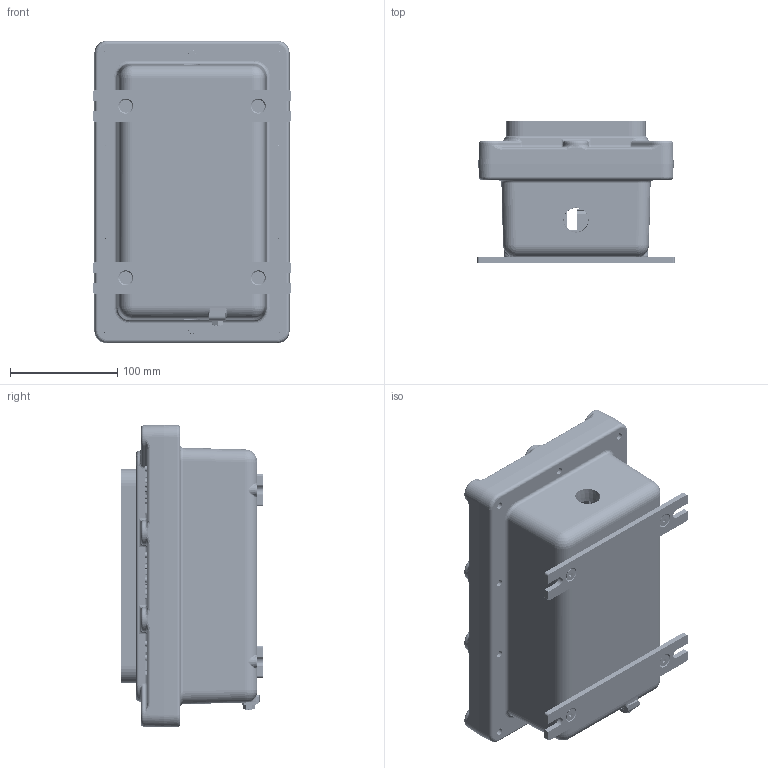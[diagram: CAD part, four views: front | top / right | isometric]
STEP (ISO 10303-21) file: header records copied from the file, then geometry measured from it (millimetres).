
FILE_DESCRIPTION((''),'2;1');
FILE_NAME('C:\Users\L.A.Ronzhin\Desktop\Новая папка (3)\ТЗ 40076\Светильники ГОРЭЛТЕХ\СГУ02+\СГУ02-2480C_П_90.stp','2019-04-11T15:18:24',('L.A.Ronzhin'),(''),'Autodesk Inventor 2012','Autodesk Inventor 2012','');
FILE_SCHEMA(('CONFIG_CONTROL_DESIGN'));
Length unit declared in the file: millimetre
Products named in the file (1): СГУ02-2480C_П_90
Bounding box: 184 x 132 x 282 mm (x, y, z)
Surface area: 653879.5 mm2 (no closed solid volume)
Topology: 0 solids, 72 shells, 8191 faces, 21463 edges, 14076 vertices
Faces by surface type: plane 4433, bspline 2606, cylinder 669, cone 277, torus 156, sphere 50
Full cylindrical faces by diameter (mm): 1.1 x5, 1.5 x5, 2.5 x8, 2.729 x6, 3 x18, 3.1 x4, 3.5 x6, 3.621 x2, 4 x4, 4.256 x1, 4.9 x12, 4.917 x9, 5.459 x2, 5.7 x2, 6 x21, 6.4 x2, 6.5 x6, 6.647 x10, 7 x32, 7.9 x3, 8 x12, 9 x10, 11.34 x12, 12 x6, 12.8 x1, 13 x10
Entity records: 306127 total; most frequent: CARTESIAN_POINT 115550, ORIENTED_EDGE 41830, DIRECTION 28621, EDGE_CURVE 20915, VERTEX_POINT 13969, VECTOR 13331, LINE 13331, EDGE_LOOP 9488
